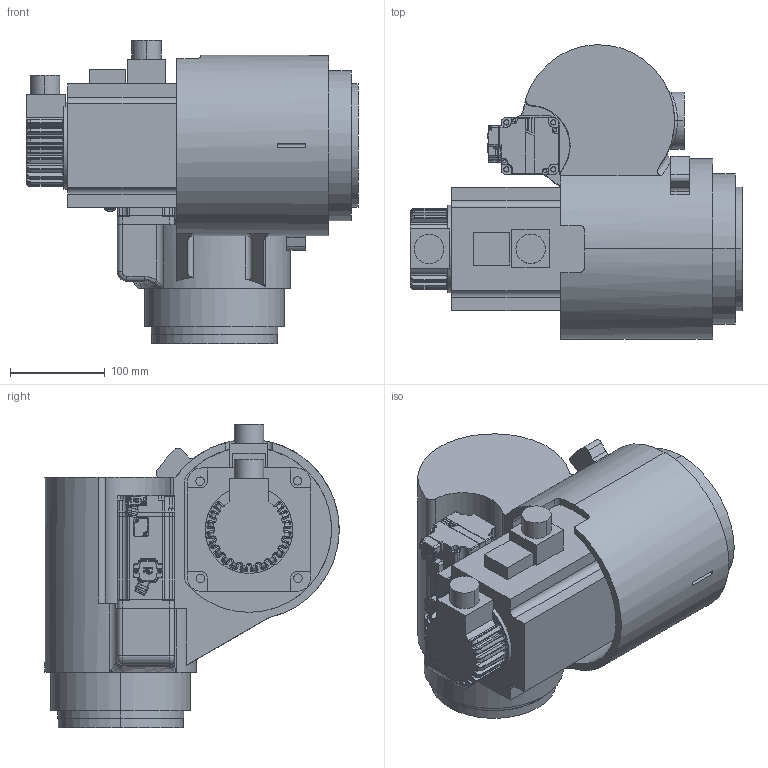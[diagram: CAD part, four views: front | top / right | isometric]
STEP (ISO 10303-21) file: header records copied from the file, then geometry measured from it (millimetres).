
FILE_DESCRIPTION (( 'STEP AP203' ), '1' );
FILE_NAME ('TKB3670-04.STEP', '2023-07-17T01:46:53', ( '1' ), ( '1' ), 'SwSTEP 2.0', 'SolidWorks 2018', '' );
FILE_SCHEMA (( 'CONFIG_CONTROL_DESIGN' ));
Length unit declared in the file: millimetre
Products named in the file (1): TKB3670-04
Bounding box: 349.5 x 310 x 319.5 mm (x, y, z)
Volume: 10779955.6 mm3; surface area: 649308.1 mm2
Topology: 27 solids, 27 shells, 2419 faces, 6432 edges, 4153 vertices
Faces by surface type: plane 1146, cylinder 765, bspline 374, torus 91, cone 37, sphere 6
Entity records: 89268 total; most frequent: CARTESIAN_POINT 30833, ORIENTED_EDGE 12834, DIRECTION 11311, EDGE_CURVE 6417, VERTEX_POINT 4151, AXIS2_PLACEMENT_3D 3815, VECTOR 3681, LINE 3681
